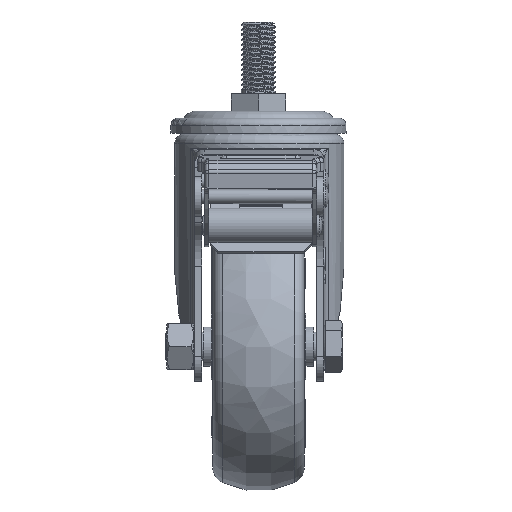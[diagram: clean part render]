
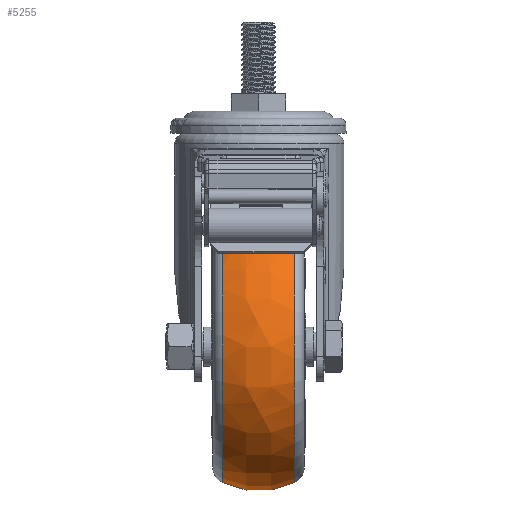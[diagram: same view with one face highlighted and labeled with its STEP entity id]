
A CAD part, left-side view. The second image highlights one B-rep face of the part: STEP entity #5255.
In plain terms, the highlighted free-form (B-spline) face has degree [3, 3] with [4, 7] control points.
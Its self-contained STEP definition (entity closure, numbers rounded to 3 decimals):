
#138=(
BOUNDED_SURFACE()
B_SPLINE_SURFACE(3,3,((#41200,#41201,#41202,#41203,#41204,#41205,#41206),
(#41207,#41208,#41209,#41210,#41211,#41212,#41213),(#41214,#41215,#41216,
#41217,#41218,#41219,#41220),(#41221,#41222,#41223,#41224,#41225,#41226,
#41227)),.UNSPECIFIED.,.F.,.T.,.F.)
B_SPLINE_SURFACE_WITH_KNOTS((4,4),(1,3,3,3,1),(0.,1.),(-0.5,0.,0.5,1.,1.5),
 .UNSPECIFIED.)
GEOMETRIC_REPRESENTATION_ITEM()
RATIONAL_B_SPLINE_SURFACE(((1.,0.333,0.333,1.,0.333,
0.333,1.),(0.939,0.313,0.313,
0.939,0.313,0.313,0.939),
(0.939,0.313,0.313,0.939,
0.313,0.313,0.939),(1.,0.333,
0.333,1.,0.333,0.333,1.)))
REPRESENTATION_ITEM('')
SURFACE()
);
#4322=FACE_BOUND('',#8052,.T.);
#4323=FACE_BOUND('',#8053,.T.);
#5255=ADVANCED_FACE('',(#4322,#4323),#138,.T.);
#8052=EDGE_LOOP('',(#12946));
#8053=EDGE_LOOP('',(#12947));
#12946=ORIENTED_EDGE('',*,*,#18117,.F.);
#12947=ORIENTED_EDGE('',*,*,#18118,.F.);
#15548=VERTEX_POINT('',#41197);
#15549=VERTEX_POINT('',#41199);
#18117=EDGE_CURVE('',#15548,#15548,#19006,.T.);
#18118=EDGE_CURVE('',#15549,#15549,#19007,.T.);
#19006=CIRCLE('',#20575,47.522);
#19007=CIRCLE('',#20576,47.522);
#20575=AXIS2_PLACEMENT_3D('',#41196,#25059,#25060);
#20576=AXIS2_PLACEMENT_3D('',#41198,#25061,#25062);
#25059=DIRECTION('',(0.,-1.,0.));
#25060=DIRECTION('',(-0.707,0.,0.707));
#25061=DIRECTION('',(0.,1.,0.));
#25062=DIRECTION('',(0.707,0.,-0.707));
#41196=CARTESIAN_POINT('',(-32.,-12.5,-113.));
#41197=CARTESIAN_POINT('',(-65.603,-12.5,-79.397));
#41198=CARTESIAN_POINT('',(-32.,12.5,-113.));
#41199=CARTESIAN_POINT('',(1.603,12.5,-146.603));
#41200=CARTESIAN_POINT('',(-79.522,-12.5,-113.));
#41201=CARTESIAN_POINT('',(-79.522,-12.5,-208.044));
#41202=CARTESIAN_POINT('',(15.522,-12.5,-208.044));
#41203=CARTESIAN_POINT('',(15.522,-12.5,-113.));
#41204=CARTESIAN_POINT('',(15.522,-12.5,-17.956));
#41205=CARTESIAN_POINT('',(-79.522,-12.5,-17.956));
#41206=CARTESIAN_POINT('',(-79.522,-12.5,-113.));
#41207=CARTESIAN_POINT('',(-83.218,-4.436,-113.));
#41208=CARTESIAN_POINT('',(-83.218,-4.436,-215.436));
#41209=CARTESIAN_POINT('',(19.218,-4.436,-215.436));
#41210=CARTESIAN_POINT('',(19.218,-4.436,-113.));
#41211=CARTESIAN_POINT('',(19.218,-4.436,-10.564));
#41212=CARTESIAN_POINT('',(-83.218,-4.436,-10.564));
#41213=CARTESIAN_POINT('',(-83.218,-4.436,-113.));
#41214=CARTESIAN_POINT('',(-83.218,4.436,-113.));
#41215=CARTESIAN_POINT('',(-83.218,4.436,-215.436));
#41216=CARTESIAN_POINT('',(19.218,4.436,-215.436));
#41217=CARTESIAN_POINT('',(19.218,4.436,-113.));
#41218=CARTESIAN_POINT('',(19.218,4.436,-10.564));
#41219=CARTESIAN_POINT('',(-83.218,4.436,-10.564));
#41220=CARTESIAN_POINT('',(-83.218,4.436,-113.));
#41221=CARTESIAN_POINT('',(-79.522,12.5,-113.));
#41222=CARTESIAN_POINT('',(-79.522,12.5,-208.044));
#41223=CARTESIAN_POINT('',(15.522,12.5,-208.044));
#41224=CARTESIAN_POINT('',(15.522,12.5,-113.));
#41225=CARTESIAN_POINT('',(15.522,12.5,-17.956));
#41226=CARTESIAN_POINT('',(-79.522,12.5,-17.956));
#41227=CARTESIAN_POINT('',(-79.522,12.5,-113.));
